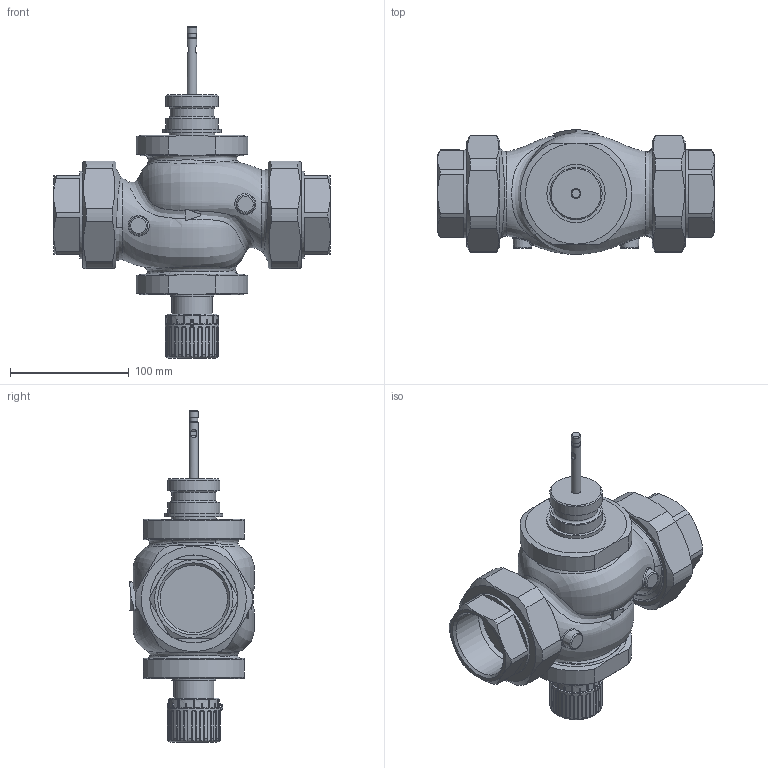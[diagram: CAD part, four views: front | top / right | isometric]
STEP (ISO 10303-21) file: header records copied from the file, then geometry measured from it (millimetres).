
FILE_DESCRIPTION(/* description */ (''),/* implementation_level */ '2;1');
FILE_NAME(/* name */ 'rv122_T_dn50_T.stp',/* time_stamp */ '2025-07-09T08:36:26+02:00',/* author */ ('Jan Novák'),/* organization */ ('LDM'),/* preprocessor_version */ 'ST-DEVELOPER v18.102',/* originating_system */ 'SIEMENS PLM Software NX2206.3001',/* authorisation */ '');
FILE_SCHEMA (('AUTOMOTIVE_DESIGN { 1 0 10303 214 3 1 1 1 }'));
Length unit declared in the file: millimetre
Products named in the file (1): rv_0767-770_rv122_T_dn50_objects
Bounding box: 233 x 104.99 x 279.4 mm (x, y, z)
Volume: 1619880.4 mm3; surface area: 181809.2 mm2
Topology: 7 solids, 7 shells, 577 faces, 1417 edges, 876 vertices
Faces by surface type: cylinder 210, plane 175, bspline 96, torus 52, cone 44
Full cylindrical faces by diameter (mm): 2 x1, 2.5 x1, 7 x1, 8 x2, 33.8 x1, 37 x2, 38 x1, 43 x1, 44 x2, 49 x1, 56.655 x2, 60 x2, 64 x2, 73.8 x2, 74 x2, 77.8 x2, 78 x2, 78.576 x2, 81.534 x2
Entity records: 31105 total; most frequent: CARTESIAN_POINT 18582, ORIENTED_EDGE 2636, DIRECTION 2382, EDGE_CURVE 1318, AXIS2_PLACEMENT_3D 990, VERTEX_POINT 843, EDGE_LOOP 681, ADVANCED_FACE 577
